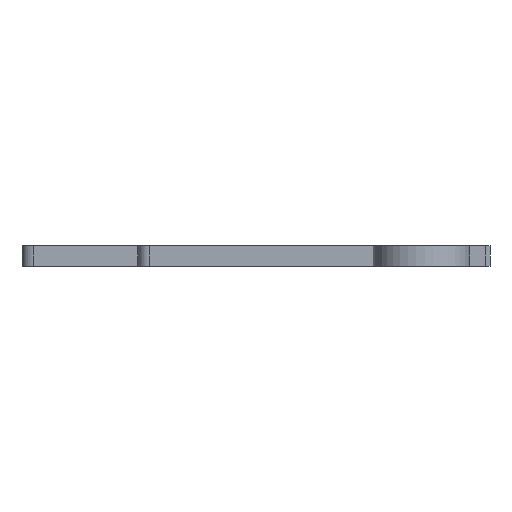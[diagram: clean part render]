
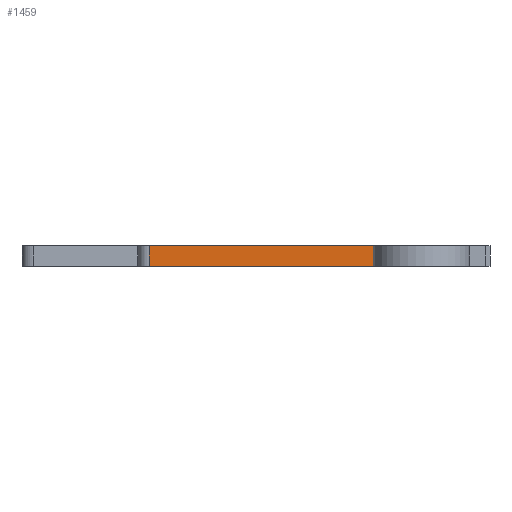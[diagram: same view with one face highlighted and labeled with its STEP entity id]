
A CAD part, left-side view. The second image highlights one B-rep face of the part: STEP entity #1459.
In plain terms, the highlighted planar face has unit normal (-1, 0, 0).
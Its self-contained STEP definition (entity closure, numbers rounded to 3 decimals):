
#50 = PLANE('',#51);
#51 = AXIS2_PLACEMENT_3D('',#52,#53,#54);
#52 = CARTESIAN_POINT('',(-30.5,-34.,9.));
#53 = DIRECTION('',(0.,0.,1.));
#54 = DIRECTION('',(1.,0.,0.));
#694 = VERTEX_POINT('',#695);
#695 = CARTESIAN_POINT('',(-30.5,-5.,9.));
#714 = CYLINDRICAL_SURFACE('',#715,1.);
#715 = AXIS2_PLACEMENT_3D('',#716,#717,#718);
#716 = CARTESIAN_POINT('',(-29.5,-5.,7.2));
#717 = DIRECTION('',(0.,0.,1.));
#718 = DIRECTION('',(-1.,-0.,0.));
#726 = EDGE_CURVE('',#727,#694,#729,.T.);
#727 = VERTEX_POINT('',#728);
#728 = CARTESIAN_POINT('',(-30.5,-26.,9.));
#729 = SURFACE_CURVE('',#730,(#734,#741),.PCURVE_S1.);
#730 = LINE('',#731,#732);
#731 = CARTESIAN_POINT('',(-30.5,-34.,9.));
#732 = VECTOR('',#733,1.);
#733 = DIRECTION('',(0.,1.,0.));
#734 = PCURVE('',#50,#735);
#735 = DEFINITIONAL_REPRESENTATION('',(#736),#740);
#736 = LINE('',#737,#738);
#737 = CARTESIAN_POINT('',(0.,0.));
#738 = VECTOR('',#739,1.);
#739 = DIRECTION('',(0.,1.));
#740 = ( GEOMETRIC_REPRESENTATION_CONTEXT(2) 
PARAMETRIC_REPRESENTATION_CONTEXT() REPRESENTATION_CONTEXT('2D SPACE',''
  ) );
#741 = PCURVE('',#742,#747);
#742 = PLANE('',#743);
#743 = AXIS2_PLACEMENT_3D('',#744,#745,#746);
#744 = CARTESIAN_POINT('',(-30.5,-34.,7.2));
#745 = DIRECTION('',(1.,0.,0.));
#746 = DIRECTION('',(0.,0.,1.));
#747 = DEFINITIONAL_REPRESENTATION('',(#748),#752);
#748 = LINE('',#749,#750);
#749 = CARTESIAN_POINT('',(1.8,0.));
#750 = VECTOR('',#751,1.);
#751 = DIRECTION('',(0.,-1.));
#752 = ( GEOMETRIC_REPRESENTATION_CONTEXT(2) 
PARAMETRIC_REPRESENTATION_CONTEXT() REPRESENTATION_CONTEXT('2D SPACE',''
  ) );
#770 = PLANE('',#771);
#771 = AXIS2_PLACEMENT_3D('',#772,#773,#774);
#772 = CARTESIAN_POINT('',(-34.6,-26.,7.2));
#773 = DIRECTION('',(0.,1.,0.));
#774 = DIRECTION('',(0.,0.,1.));
#1189 = PLANE('',#1190);
#1190 = AXIS2_PLACEMENT_3D('',#1191,#1192,#1193);
#1191 = CARTESIAN_POINT('',(-30.5,-34.,7.2));
#1192 = DIRECTION('',(0.,0.,1.));
#1193 = DIRECTION('',(1.,0.,0.));
#1399 = VERTEX_POINT('',#1400);
#1400 = CARTESIAN_POINT('',(-30.5,-26.,7.2));
#1441 = EDGE_CURVE('',#1399,#727,#1442,.T.);
#1442 = SURFACE_CURVE('',#1443,(#1447,#1453),.PCURVE_S1.);
#1443 = LINE('',#1444,#1445);
#1444 = CARTESIAN_POINT('',(-30.5,-26.,7.2));
#1445 = VECTOR('',#1446,1.);
#1446 = DIRECTION('',(0.,0.,1.));
#1447 = PCURVE('',#770,#1448);
#1448 = DEFINITIONAL_REPRESENTATION('',(#1449),#1452);
#1449 = B_SPLINE_CURVE_WITH_KNOTS('',1,(#1450,#1451),.UNSPECIFIED.,.F.,
  .F.,(2,2),(0.,1.8),.PIECEWISE_BEZIER_KNOTS.);
#1450 = CARTESIAN_POINT('',(0.,4.1));
#1451 = CARTESIAN_POINT('',(1.8,4.1));
#1452 = ( GEOMETRIC_REPRESENTATION_CONTEXT(2) 
PARAMETRIC_REPRESENTATION_CONTEXT() REPRESENTATION_CONTEXT('2D SPACE',''
  ) );
#1453 = PCURVE('',#742,#1454);
#1454 = DEFINITIONAL_REPRESENTATION('',(#1455),#1458);
#1455 = B_SPLINE_CURVE_WITH_KNOTS('',1,(#1456,#1457),.UNSPECIFIED.,.F.,
  .F.,(2,2),(0.,1.8),.PIECEWISE_BEZIER_KNOTS.);
#1456 = CARTESIAN_POINT('',(0.,-8.));
#1457 = CARTESIAN_POINT('',(1.8,-8.));
#1458 = ( GEOMETRIC_REPRESENTATION_CONTEXT(2) 
PARAMETRIC_REPRESENTATION_CONTEXT() REPRESENTATION_CONTEXT('2D SPACE',''
  ) );
#1459 = ADVANCED_FACE('',(#1460),#742,.F.);
#1460 = FACE_BOUND('',#1461,.F.);
#1461 = EDGE_LOOP('',(#1462,#1463,#1464,#1487));
#1462 = ORIENTED_EDGE('',*,*,#726,.F.);
#1463 = ORIENTED_EDGE('',*,*,#1441,.F.);
#1464 = ORIENTED_EDGE('',*,*,#1465,.T.);
#1465 = EDGE_CURVE('',#1399,#1466,#1468,.T.);
#1466 = VERTEX_POINT('',#1467);
#1467 = CARTESIAN_POINT('',(-30.5,-5.,7.2));
#1468 = SURFACE_CURVE('',#1469,(#1473,#1480),.PCURVE_S1.);
#1469 = LINE('',#1470,#1471);
#1470 = CARTESIAN_POINT('',(-30.5,-34.,7.2));
#1471 = VECTOR('',#1472,1.);
#1472 = DIRECTION('',(0.,1.,0.));
#1473 = PCURVE('',#742,#1474);
#1474 = DEFINITIONAL_REPRESENTATION('',(#1475),#1479);
#1475 = LINE('',#1476,#1477);
#1476 = CARTESIAN_POINT('',(0.,0.));
#1477 = VECTOR('',#1478,1.);
#1478 = DIRECTION('',(0.,-1.));
#1479 = ( GEOMETRIC_REPRESENTATION_CONTEXT(2) 
PARAMETRIC_REPRESENTATION_CONTEXT() REPRESENTATION_CONTEXT('2D SPACE',''
  ) );
#1480 = PCURVE('',#1189,#1481);
#1481 = DEFINITIONAL_REPRESENTATION('',(#1482),#1486);
#1482 = LINE('',#1483,#1484);
#1483 = CARTESIAN_POINT('',(0.,0.));
#1484 = VECTOR('',#1485,1.);
#1485 = DIRECTION('',(0.,1.));
#1486 = ( GEOMETRIC_REPRESENTATION_CONTEXT(2) 
PARAMETRIC_REPRESENTATION_CONTEXT() REPRESENTATION_CONTEXT('2D SPACE',''
  ) );
#1487 = ORIENTED_EDGE('',*,*,#1488,.T.);
#1488 = EDGE_CURVE('',#1466,#694,#1489,.T.);
#1489 = SURFACE_CURVE('',#1490,(#1494,#1501),.PCURVE_S1.);
#1490 = LINE('',#1491,#1492);
#1491 = CARTESIAN_POINT('',(-30.5,-5.,7.2));
#1492 = VECTOR('',#1493,1.);
#1493 = DIRECTION('',(0.,0.,1.));
#1494 = PCURVE('',#742,#1495);
#1495 = DEFINITIONAL_REPRESENTATION('',(#1496),#1500);
#1496 = LINE('',#1497,#1498);
#1497 = CARTESIAN_POINT('',(0.,-29.));
#1498 = VECTOR('',#1499,1.);
#1499 = DIRECTION('',(1.,0.));
#1500 = ( GEOMETRIC_REPRESENTATION_CONTEXT(2) 
PARAMETRIC_REPRESENTATION_CONTEXT() REPRESENTATION_CONTEXT('2D SPACE',''
  ) );
#1501 = PCURVE('',#714,#1502);
#1502 = DEFINITIONAL_REPRESENTATION('',(#1503),#1507);
#1503 = LINE('',#1504,#1505);
#1504 = CARTESIAN_POINT('',(-0.,0.));
#1505 = VECTOR('',#1506,1.);
#1506 = DIRECTION('',(-0.,1.));
#1507 = ( GEOMETRIC_REPRESENTATION_CONTEXT(2) 
PARAMETRIC_REPRESENTATION_CONTEXT() REPRESENTATION_CONTEXT('2D SPACE',''
  ) );
